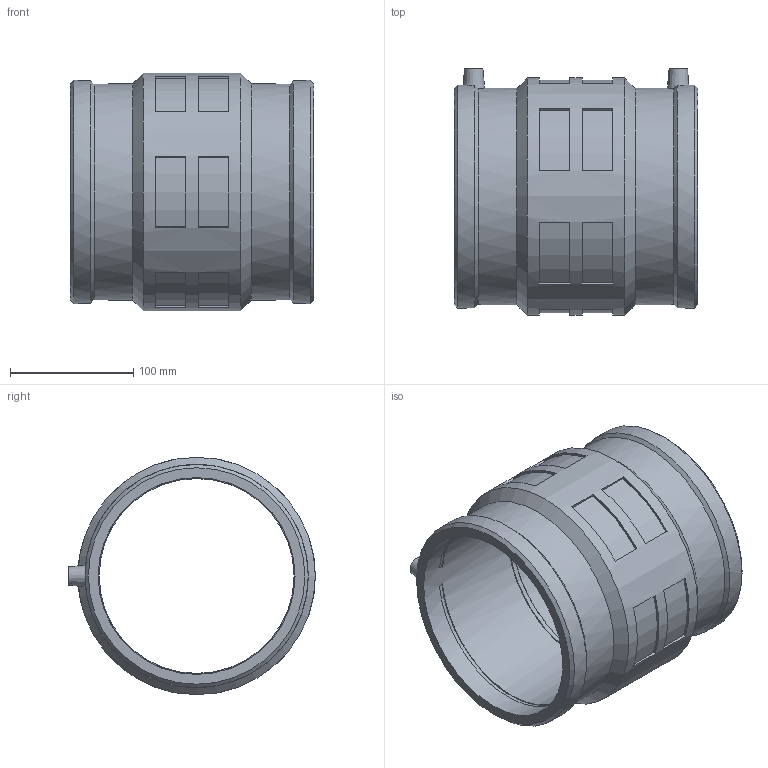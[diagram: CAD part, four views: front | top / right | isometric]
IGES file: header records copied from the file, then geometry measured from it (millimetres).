
Global section: file name: 460104160.ipt; native system: Autodesk Inventor 2015; preprocessor: unknown; author: KIM; date: 20171106.093417; units: millimetre
Bounding box: 198 x 200.5 x 193 mm (x, y, z)
Volume: 1288644.6 mm3; surface area: 236904.3 mm2
Topology: 1 solids, 1 shells, 98 faces, 240 edges, 160 vertices
Faces by surface type: plane 60, cylinder 19, cone 12, revolution 7
Full cylindrical faces by diameter (mm): 4 x2, 175.977 x2, 181.42 x2, 193 x1
